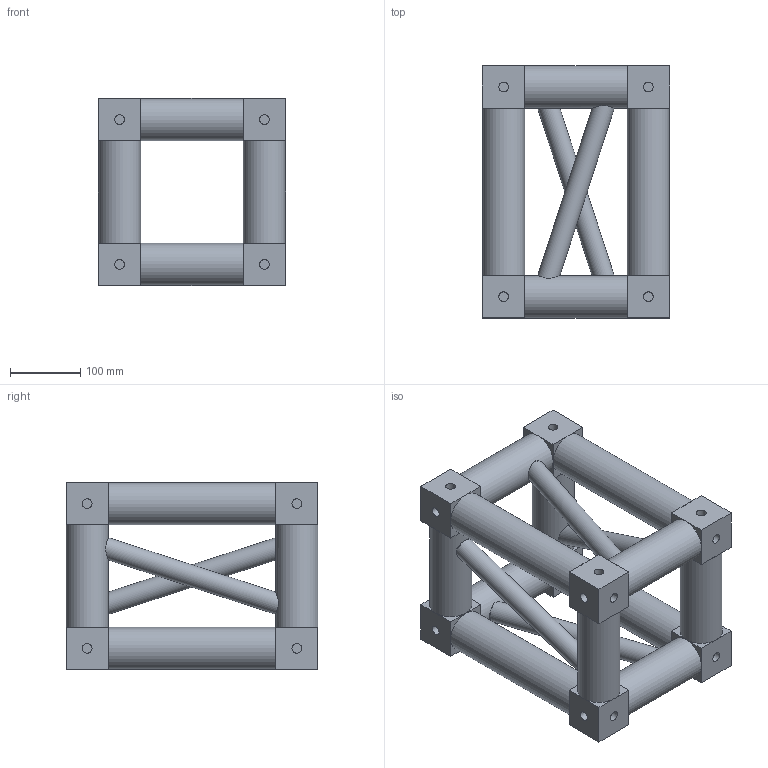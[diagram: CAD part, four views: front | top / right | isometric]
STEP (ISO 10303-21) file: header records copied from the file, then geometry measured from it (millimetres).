
FILE_DESCRIPTION(/* description */ (''),/* implementation_level */ '2;1');
FILE_NAME(/* name */ 'M:\Symbolen_NIEUW\STP\36-er truss\S36R\BOX-36R-0_111130020.stp',/* time_stamp */ '2017-11-10T13:14:02+01:00',/* author */ ('Kees'),/* organization */ (''),/* preprocessor_version */ 'ST-DEVELOPER v16.13',/* originating_system */ 'Autodesk Inventor 2018',/* authorisation */ '');
FILE_SCHEMA (('AUTOMOTIVE_DESIGN { 1 0 10303 214 3 1 1 }'));
Length unit declared in the file: millimetre
Products named in the file (1): Occurrence
Bounding box: 265.5 x 357.5 x 265.5 mm (x, y, z)
Volume: 8230437.3 mm3; surface area: 642970.4 mm2
Topology: 1 solids, 1 shells, 220 faces, 550 edges, 313 vertices
Faces by surface type: plane 156, cylinder 64
Full cylindrical faces by diameter (mm): 13.835 x48, 30 x4, 60 x12
Entity records: 6386 total; most frequent: CARTESIAN_POINT 1169, DIRECTION 1138, ORIENTED_EDGE 880, AXIS2_PLACEMENT_3D 485, EDGE_CURVE 440, EDGE_LOOP 316, VERTEX_POINT 268, STYLED_ITEM 221
